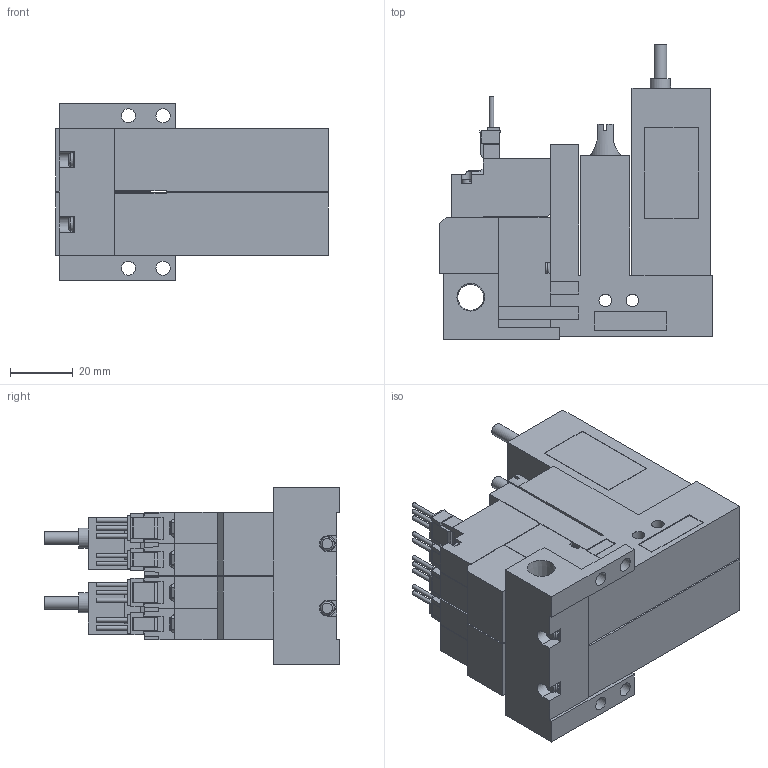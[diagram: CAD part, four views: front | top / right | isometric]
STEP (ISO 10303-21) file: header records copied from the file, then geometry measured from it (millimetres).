
FILE_DESCRIPTION(('STEP AP203'),'1');
FILE_NAME('VG_VGPL5WLR202.stp','2025-02-18T07:06:32',(' '),(' '),'Spatial InterOp 3D',' ',' ');
FILE_SCHEMA(('CONFIG_CONTROL_DESIGN'));
Length unit declared in the file: millimetre
Products named in the file (5): BMC22M※※※※VG_VGPL5WLR202; Solenoid valve W; Pressure sensor VGL; Unit L; Base MR20R
Assembly tree (7 placements, depth 2):
  BMC22M※※※※VG_VGPL5WLR202
    Solenoid valve W  x2
    Pressure sensor VGL  x2
    Unit L  x2
    Base MR20R
Bounding box: 86.6 x 94 x 56.5 mm (x, y, z)
Volume: 204515.2 mm3; surface area: 56344.1 mm2
Topology: 7 solids, 7 shells, 741 faces, 1983 edges, 1314 vertices
Faces by surface type: plane 622, cylinder 97, cone 16, torus 6
Full cylindrical faces by diameter (mm): 1.4 x10, 2.5 x6, 3 x8, 3.5 x8, 3.6 x2, 4 x12, 4.134 x2, 4.5 x4, 5.2 x2, 6 x2, 6.5 x2, 6.6 x2, 8.279 x1
Entity records: 12235 total; most frequent: CARTESIAN_POINT 2248, ORIENTED_EDGE 1958, DIRECTION 1943, EDGE_CURVE 979, LINE 815, VECTOR 815, VERTEX_POINT 679, AXIS2_PLACEMENT_3D 564
